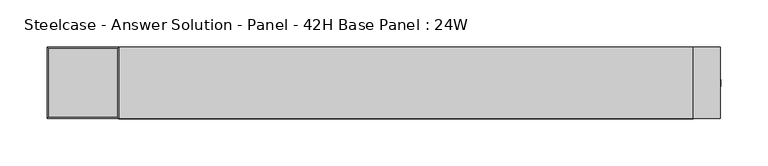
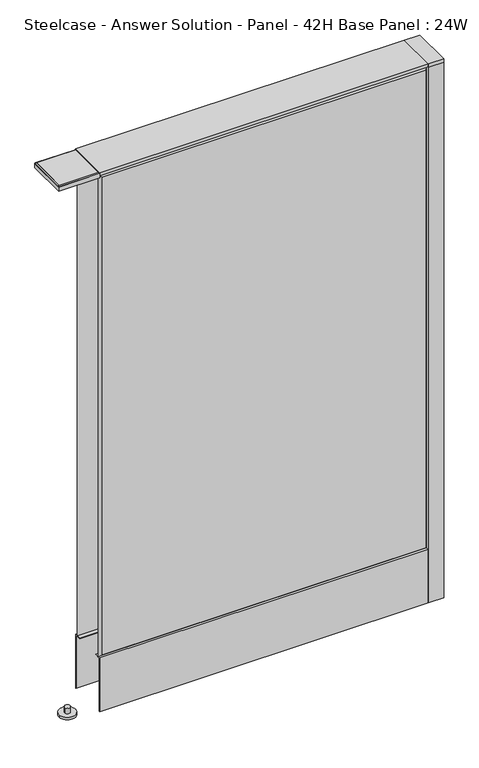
"""IFC4 building model written with IfcOpenShell, lengths in millimetres: furniture geometry, Steelcase - Answer Solution - Panel - 42H Base Panel : 24W."""

from ifc_helpers import new_model, si_unit, point, frame, frame_2d, origin, place, context, project, spatial, polyline, circle_curve, ellipse_curve, trimmed, segment, composite_curve, outline, extrude, faceted_brep, source, transform, mapped, element, save
from ifc_brep_helpers import plane_surface, cylinder_surface, advanced_brep


def steelcase_answer_solution_panel_42h_base_panel_24w_224bf8fc(model_context):
    return source(origin(), model_context, "Body", "SolidModel", [
        extrude(outline(composite_curve([segment(trimmed(circle_curve(frame_2d((319.024, 0.0039657)), 5.08), [point((324.104, 0.0039657))], [point((313.944, 0.0039657))], False, "CARTESIAN"), True, "CONTINUOUS"), segment(trimmed(circle_curve(frame_2d((319.024, 0.0039657)), 5.08), [point((313.944, 0.0039657))], [point((324.104, 0.0039657))], False, "CARTESIAN"), True, "CONTINUOUS")], self_intersect=False)), frame((0.0, 0.0, 5.0799671), z_axis=(0.0, 0.0, 1.0), x_axis=(1.0, 0.0, 0.0)), (0.0, 0.0, 1.0), 10.414),
        extrude(outline(composite_curve([segment(trimmed(circle_curve(frame_2d((319.024, 0.0039657)), 15.24), [point((334.264, 0.0039657))], [point((303.784, 0.0039657))], False, "CARTESIAN"), True, "CONTINUOUS"), segment(trimmed(circle_curve(frame_2d((319.024, 0.0039657)), 15.24), [point((303.784, 0.0039657))], [point((334.264, 0.0039657))], False, "CARTESIAN"), True, "CONTINUOUS")], self_intersect=False)), frame((0.0, 0.0, -3.29e-05), z_axis=(0.0, 0.0, 1.0), x_axis=(1.0, 0.0, 0.0)), (0.0, 0.0, 1.0), 5.08),
        extrude(outline(polyline([(333.375, 38.1039851), (333.375, -38.0960149), (304.8, -38.0960149), (304.8, 38.1039851), (333.375, 38.1039851)])), frame((0.0, 0.0, 1065.8348), z_axis=(0.0, 0.0, 1.0), x_axis=(1.0, 0.0, 0.0)), (0.0, 0.0, 1.0), 7.3151671),
        extrude(outline(polyline([(333.375, 38.1039851), (333.375, -38.0960149), (304.8, -38.0960149), (304.8, 38.1039851), (333.375, 38.1039851)])), frame((0.0, 0.0, 15.4939671), z_axis=(0.0, 0.0, 1.0), x_axis=(1.0, 0.0, 0.0)), (0.0, 0.0, 1.0), 1050.3408329),
        extrude(outline(composite_curve([segment(trimmed(circle_curve(frame_2d((-342.9, 0.0039657)), 5.08), [point((-347.98, 0.0039657))], [point((-337.82, 0.0039657))], False, "CARTESIAN"), True, "CONTINUOUS"), segment(trimmed(circle_curve(frame_2d((-342.9, 0.0039657)), 5.08), [point((-337.82, 0.0039657))], [point((-347.98, 0.0039657))], False, "CARTESIAN"), True, "CONTINUOUS")], self_intersect=False)), frame((0.0, 0.0, 5.0799671), z_axis=(0.0, 0.0, 1.0), x_axis=(1.0, 0.0, 0.0)), (0.0, 0.0, 1.0), 10.414),
        extrude(outline(composite_curve([segment(trimmed(circle_curve(frame_2d((-342.9, 0.0039657)), 15.24), [point((-358.14, 0.0039657))], [point((-327.66, 0.0039657))], False, "CARTESIAN"), True, "CONTINUOUS"), segment(trimmed(circle_curve(frame_2d((-342.9, 0.0039657)), 15.24), [point((-327.66, 0.0039657))], [point((-358.14, 0.0039657))], False, "CARTESIAN"), True, "CONTINUOUS")], self_intersect=False)), frame((0.0, 0.0, -3.29e-05), z_axis=(0.0, 0.0, 1.0), x_axis=(1.0, 0.0, 0.0)), (0.0, 0.0, 1.0), 5.08),
        extrude(outline(polyline([(-304.8, -38.0705335), (-381.0, -38.0705335), (-381.0, 38.1103637), (-304.8, 38.1103637), (-304.8, -38.0705335)])), frame((0.0, 0.0, 1062.9899671), z_axis=(0.0, 0.0, 1.0), x_axis=(1.0, 0.0, 0.0)), (0.0, 0.0, 1.0), 8.2804329),
        extrude(outline(polyline([(-379.0950777, -36.1909437), (-379.0950777, 36.2307739), (-306.705076, 36.2307739), (-306.705076, -36.1909437), (-379.0950777, -36.1909437)])), frame((0.0, 0.0, 1071.2704), z_axis=(0.0, 0.0, 1.0), x_axis=(1.0, 0.0, 0.0)), (0.0, 0.0, 1.0), 1.8795671),
        advanced_brep(
        [(-379.0950777, 36.2307739, 1073.1499671), (-306.705076, 36.2307739, 1073.1499671), (-304.8001537, 38.1356962, 1071.2704), (-381.0, 38.1356962, 1071.2704), (-379.0950777, 36.2307739, 1071.2704), (-306.705076, 36.2307739, 1071.2704), (-306.705076, -36.1909437, 1073.1499671), (-304.8001537, -38.095866, 1071.2704), (-306.705076, -36.1909437, 1071.2704), (-379.0950777, -36.1909437, 1073.1499671), (-381.0, -38.095866, 1071.2704), (-379.0950777, -36.1909437, 1071.2704)],
        [
            (0, 1),
            (1, 2, ellipse_curve(frame((-306.6797434, 36.2561065, 1071.270548), z_axis=(-0.7071067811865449, 0.7071067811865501, 0.0), x_axis=(-0.7071067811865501, -0.7071067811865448, 0.0)), 2.6581413, 1.8795897)),
            (2, 3),
            (3, 0, ellipse_curve(frame((-379.1204103, 36.2561065, 1071.270548), z_axis=(0.7071067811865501, 0.7071067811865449, 0.0), x_axis=(-0.7071067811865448, 0.7071067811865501, 0.0)), 2.6581413, 1.8795897)),
            (4, 5),
            (5, 1),
            (0, 4),
            (1, 6),
            (6, 7, ellipse_curve(frame((-306.6797434, -36.2162763, 1071.270548), z_axis=(0.7071067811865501, 0.7071067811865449, 0.0), x_axis=(-0.7071067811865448, 0.7071067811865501, 0.0)), 2.6581413, 1.8795897)),
            (7, 2),
            (5, 8),
            (8, 6),
            (6, 9),
            (9, 10, ellipse_curve(frame((-379.1204103, -36.2162763, 1071.270548), z_axis=(0.7071067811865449, -0.7071067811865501, 0.0), x_axis=(0.7071067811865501, 0.7071067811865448, 0.0)), 2.6581413, 1.8795897)),
            (10, 7),
            (8, 11),
            (11, 9),
            (10, 3),
            (4, 11),
            (9, 0),
        ],
        [
            cylinder_surface(frame((-379.0950777, 36.2561065, 1071.270548), z_axis=(-1.0, 0.0, 0.0), x_axis=(0.0, -1.0, 0.0)), 1.8795897),
            plane_surface(frame((-379.0950777, 36.2307739, 1073.1499671), z_axis=(0.0, -1.0, 0.0), x_axis=(1.0, 0.0, 0.0))),
            cylinder_surface(frame((-306.6797434, 36.2307739, 1071.270548), z_axis=(0.0, 1.0, 0.0), x_axis=(-1.0, 0.0, 0.0)), 1.8795897),
            plane_surface(frame((-306.705076, 36.2307739, 1073.1499671), z_axis=(-1.0, 0.0, 0.0), x_axis=(0.0, -1.0, 0.0))),
            cylinder_surface(frame((-306.705076, -36.2162763, 1071.270548), z_axis=(1.0, 0.0, 0.0), x_axis=(0.0, 1.0, 0.0)), 1.8795897),
            plane_surface(frame((-306.705076, -36.1909437, 1073.1499671), z_axis=(0.0, 1.0, 0.0), x_axis=(-1.0, 0.0, 0.0))),
            plane_surface(frame((-379.0950777, -36.1909437, 1071.2704), z_axis=(0.0, 0.0, -1.0), x_axis=(0.0, 1.0, 0.0))),
            cylinder_surface(frame((-379.1204103, -36.1909437, 1071.270548), z_axis=(0.0, -1.0, 0.0), x_axis=(1.0, 0.0, 0.0)), 1.8795897),
            plane_surface(frame((-379.0950777, -36.1909437, 1073.1499671), z_axis=(1.0, 0.0, 0.0), x_axis=(0.0, 1.0, 0.0))),
        ],
        [
            (0, [[1, 2, 3, 4]]),
            (1, [[5, 6, -1, 7]]),
            (2, [[8, 9, 10, -2]]),
            (3, [[11, 12, -8, -6]]),
            (4, [[13, 14, 15, -9]]),
            (5, [[16, 17, -13, -12]]),
            (6, [[-3, -10, -15, 18], [-5, 19, -16, -11]]),
            (7, [[20, -4, -18, -14]]),
            (8, [[-19, -7, -20, -17]]),
        ],
    ),
        faceted_brep([(-299.974, 38.1635011, 1061.974), (299.974, 38.1635011, 1061.974), (299.974, 38.1635011, 125.476), (-299.974, 38.1635011, 125.476), (-304.8, 33.3375011, 1066.8), (-304.8, 33.3375011, 120.65), (304.8, 33.3375011, 120.65), (304.8, 33.3375011, 1066.8)], [[[0, 1, 2, 3]], [[4, 5, 6, 7]], [[4, 7, 1, 0]], [[7, 6, 2, 1]], [[6, 5, 3, 2]], [[5, 4, 0, 3]]]),
        faceted_brep([(299.974, -38.1635011, 1061.974), (-299.974, -38.1635011, 1061.974), (-299.974, -38.1635011, 125.476), (299.974, -38.1635011, 125.476), (304.8, -33.3375011, 1066.8), (304.8, -33.3375011, 120.65), (-304.8, -33.3375011, 120.65), (-304.8, -33.3375011, 1066.8)], [[[0, 1, 2, 3]], [[4, 5, 6, 7]], [[4, 7, 1, 0]], [[7, 6, 2, 1]], [[6, 5, 3, 2]], [[5, 4, 0, 3]]]),
        extrude(outline(polyline([(304.8, 38.1000194), (304.8, -38.1000194), (-304.8, -38.1000194), (-304.8, 38.1000194), (304.8, 38.1000194)])), frame((0.0, 0.0, 1066.8), z_axis=(0.0, 0.0, 1.0), x_axis=(1.0, 0.0, 0.0)), (0.0, 0.0, 1.0), 6.35),
        extrude(outline(polyline([(25.4000011, 119.8575157), (25.4000011, 120.65), (38.1000194, 120.65), (38.1000194, 15.494), (37.3075215, 15.494), (37.3075215, 119.8575157), (25.4000011, 119.8575157)])), frame((-304.8, 0.0, 0.0), z_axis=(1.0, 0.0, 0.0), x_axis=(0.0, 1.0, 0.0)), (0.0, 0.0, 1.0), 609.6),
        extrude(outline(polyline([(-25.4000011, 119.8575157), (-37.3075215, 119.8575157), (-37.3075215, 15.494), (-38.1000194, 15.494), (-38.1000194, 120.65), (-25.4000011, 120.65), (-25.4000011, 119.8575157)])), frame((-304.8, 0.0, 0.0), z_axis=(1.0, 0.0, 0.0), x_axis=(0.0, 1.0, 0.0)), (0.0, 0.0, 1.0), 609.6),
    ])


if __name__ == "__main__":
    model = new_model("IFC4")
    model_context = context("Model", 3, world=origin())
    ifc_project = project(units=[si_unit("LENGTHUNIT", "METRE", prefix="MILLI")], contexts=[model_context])
    site = spatial("IfcSite", under=ifc_project)
    building = spatial("IfcBuilding", under=site)
    placement = place(None, origin())
    steelcase_answer_solution_panel_42h_base_panel_24w_shape = steelcase_answer_solution_panel_42h_base_panel_24w_224bf8fc(model_context)
    element("IfcFurniture", 1, ObjectType="Steelcase - Answer Solution - Panel - 42H Base Panel : 24W", at=placement, inside=building, context=model_context, shape_type="MappedRepresentation", body=[
        mapped(steelcase_answer_solution_panel_42h_base_panel_24w_shape, transform((0.0, 0.0, 0.0), x_axis=(1.0, 0.0, 0.0), y_axis=(0.0, 1.0, 0.0), z_axis=(0.0, 0.0, 1.0))),
    ])
    save(model, "model.ifc")
